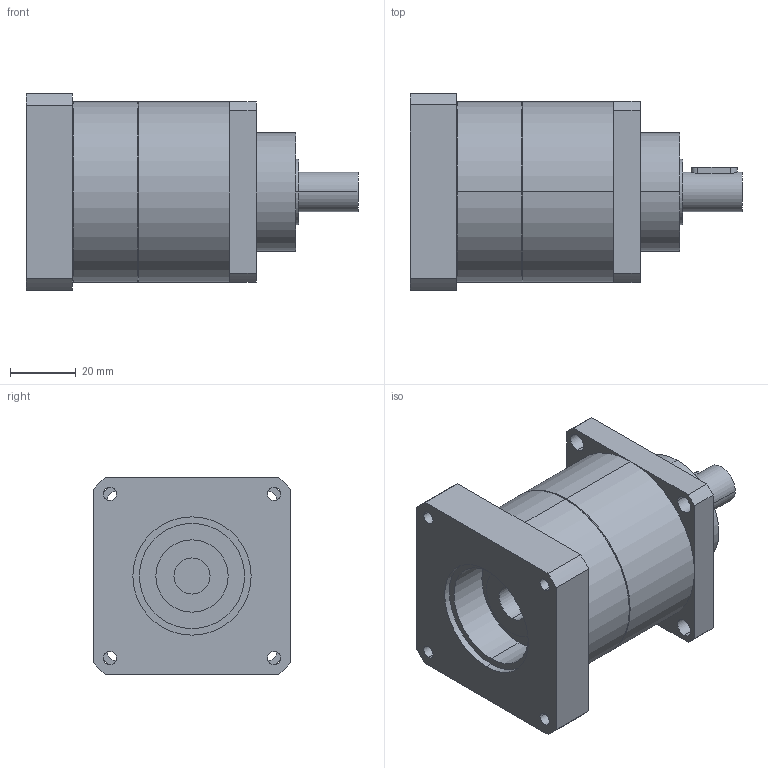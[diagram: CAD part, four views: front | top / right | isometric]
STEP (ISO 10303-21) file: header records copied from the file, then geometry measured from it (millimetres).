
FILE_DESCRIPTION(('CoCreate Modeling STEP Export'),'2;1');
FILE_NAME('GPT55_ig-3-4-5-7-10_12_B5A_11_P35.stp','2014-08-25T14:31:45',(''),(''),'CoCreate Modeling STEP processor for AP214 (Solid Model)','CoCreate Modeling 16.00C 25-Feb-2009 (C) Parametric Technology GmbH','');
FILE_SCHEMA(('AUTOMOTIVE_DESIGN { 1 0 10303 214 1 1 1 1 }'));
Length unit declared in the file: millimetre
Products named in the file (2): GPT55_ig-3-4-5-7-10_12_B5A_11_P35
Assembly tree (1 placements, depth 2):
  GPT55_ig-3-4-5-7-10_12_B5A_11_P35
    GPT55_ig-3-4-5-7-10_12_B5A_11_P35
Bounding box: 101 x 60 x 60 mm (x, y, z)
Volume: 188498.3 mm3; surface area: 27494.7 mm2
Topology: 1 solids, 1 shells, 77 faces, 204 edges, 139 vertices
Faces by surface type: cylinder 46, plane 27, cone 4
Entity records: 2515 total; most frequent: CARTESIAN_POINT 710, ORIENTED_EDGE 408, DIRECTION 318, EDGE_CURVE 204, VERTEX_POINT 139, AXIS2_PLACEMENT_3D 117, EDGE_LOOP 103, VECTOR 84
